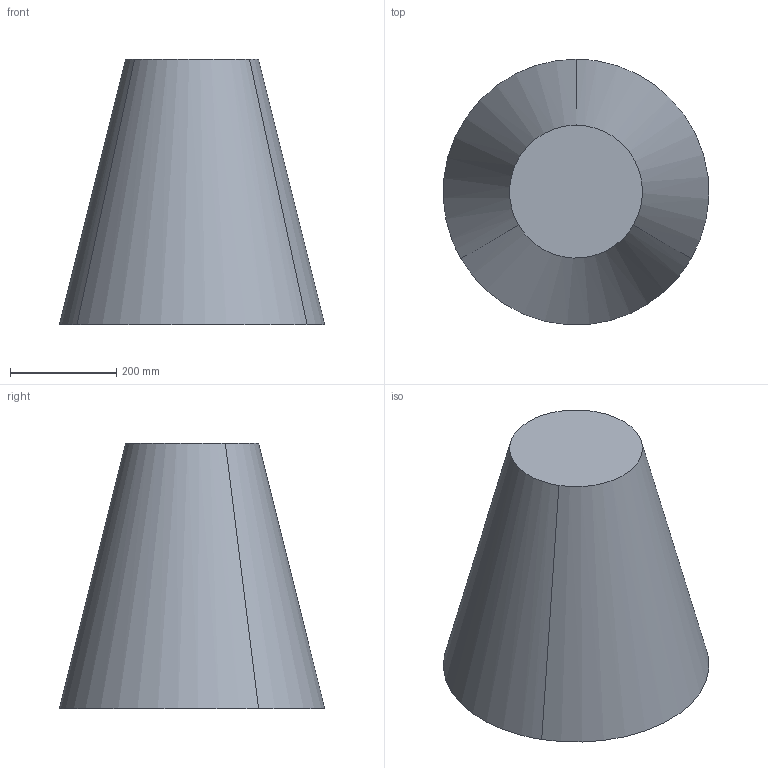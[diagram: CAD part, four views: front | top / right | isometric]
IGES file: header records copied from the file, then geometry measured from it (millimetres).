
Start section: Translator GID - IGES
Global section: file name: D:/IGES_DEPOT/cone_tronque.igs; organization: CIMNE; units: millimetre
Bounding box: 499.4 x 499.44 x 500 mm (x, y, z)
Volume: 57266478 mm3; surface area: 852579.6 mm2
Topology: 1 solids, 1 shells, 5 faces, 9 edges, 6 vertices
Faces by surface type: bspline 5
